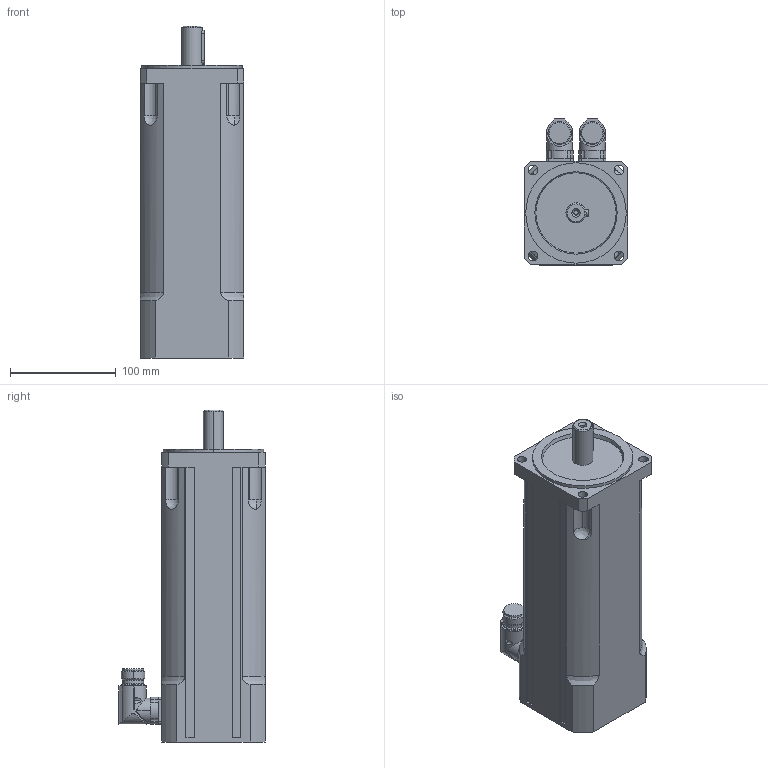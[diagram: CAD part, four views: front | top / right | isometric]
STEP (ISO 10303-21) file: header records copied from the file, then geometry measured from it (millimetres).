
FILE_DESCRIPTION(('STEP AP203'),'2;1');
FILE_NAME('MT4-0750_BX.stp','2006-08-28T20:45:59',(''),(''),'2005.2.102','THINKDESIGN','');
FILE_SCHEMA(('CONFIG_CONTROL_DESIGN'));
Length unit declared in the file: millimetre
Bounding box: 98 x 138.5 x 314 mm (x, y, z)
Volume: 2488062.2 mm3; surface area: 144837.7 mm2
Topology: 3 solids, 3 shells, 247 faces, 643 edges, 416 vertices
Faces by surface type: cylinder 110, plane 83, bspline 54
Entity records: 9366 total; most frequent: CARTESIAN_POINT 3252, ORIENTED_EDGE 1286, DIRECTION 1251, EDGE_CURVE 643, AXIS2_PLACEMENT_3D 485, VERTEX_POINT 416, CIRCLE 292, EDGE_LOOP 285
